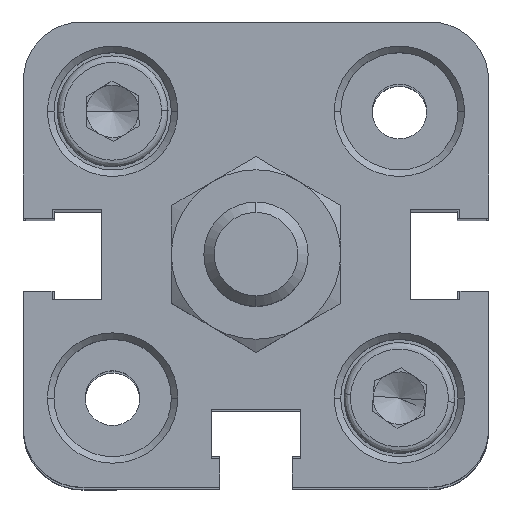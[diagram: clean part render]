
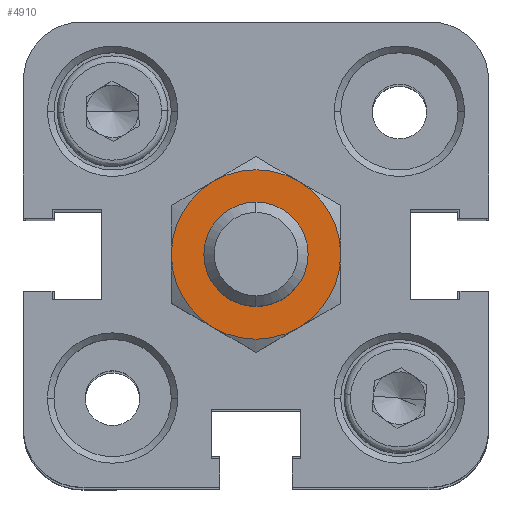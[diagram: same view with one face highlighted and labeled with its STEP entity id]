
A CAD part, top view. The second image highlights one B-rep face of the part: STEP entity #4910.
In plain terms, the highlighted planar face has unit normal (0, 0, 1).
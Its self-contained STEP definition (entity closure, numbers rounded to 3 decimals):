
#207 = DIRECTION ( 'NONE',  ( -1., 0., 0. ) ) ;
#682 = ORIENTED_EDGE ( 'NONE', *, *, #14333, .T. ) ;
#759 = ORIENTED_EDGE ( 'NONE', *, *, #6722, .T. ) ;
#1856 = CARTESIAN_POINT ( 'NONE',  ( 0., 0., 8.5 ) ) ;
#1878 = EDGE_CURVE ( 'NONE', #3404, #7822, #16882, .T. ) ;
#2254 = CARTESIAN_POINT ( 'NONE',  ( 0., 0., 8.5 ) ) ;
#2376 = AXIS2_PLACEMENT_3D ( 'NONE', #2254, #9416, #5877 ) ;
#2837 = EDGE_LOOP ( 'NONE', ( #14822, #15342 ) ) ;
#2894 = CIRCLE ( 'NONE', #2376, 4. ) ;
#3203 = AXIS2_PLACEMENT_3D ( 'NONE', #1856, #11029, #207 ) ;
#3404 = VERTEX_POINT ( 'NONE', #3536 ) ;
#3536 = CARTESIAN_POINT ( 'NONE',  ( -3.25, 5.629, 8.5 ) ) ;
#3661 = PLANE ( 'NONE',  #20500 ) ;
#3817 = DIRECTION ( 'NONE',  ( 0., 0., 1. ) ) ;
#4377 = FACE_OUTER_BOUND ( 'NONE', #7389, .T. ) ;
#4660 = CARTESIAN_POINT ( 'NONE',  ( 6.5, 0., 8.5 ) ) ;
#4862 = EDGE_CURVE ( 'NONE', #6450, #5720, #12777, .T. ) ;
#4879 = CIRCLE ( 'NONE', #12956, 6.5 ) ;
#4910 = ADVANCED_FACE ( 'NONE', ( #7186, #4377 ), #3661, .T. ) ;
#5327 = CARTESIAN_POINT ( 'NONE',  ( 4., 0., 8.5 ) ) ;
#5640 = DIRECTION ( 'NONE',  ( -1., 0., 0. ) ) ;
#5720 = VERTEX_POINT ( 'NONE', #11280 ) ;
#5827 = CARTESIAN_POINT ( 'NONE',  ( -6.5, 0., 8.5 ) ) ;
#5877 = DIRECTION ( 'NONE',  ( -1., 0., 0. ) ) ;
#5925 = AXIS2_PLACEMENT_3D ( 'NONE', #19667, #10506, #8923 ) ;
#6450 = VERTEX_POINT ( 'NONE', #4660 ) ;
#6722 = EDGE_CURVE ( 'NONE', #20540, #17810, #20307, .T. ) ;
#6739 = CARTESIAN_POINT ( 'NONE',  ( -4., 0., 8.5 ) ) ;
#6754 = AXIS2_PLACEMENT_3D ( 'NONE', #7264, #16385, #5640 ) ;
#7186 = FACE_BOUND ( 'NONE', #2837, .T. ) ;
#7264 = CARTESIAN_POINT ( 'NONE',  ( 0., 0., 8.5 ) ) ;
#7389 = EDGE_LOOP ( 'NONE', ( #11201, #759, #17743, #19281, #682, #10656 ) ) ;
#7822 = VERTEX_POINT ( 'NONE', #5827 ) ;
#7908 = CIRCLE ( 'NONE', #5925, 6.5 ) ;
#8708 = DIRECTION ( 'NONE',  ( 0., 0., 1. ) ) ;
#8923 = DIRECTION ( 'NONE',  ( -1., 0., 0. ) ) ;
#9416 = DIRECTION ( 'NONE',  ( 0., 0., -1. ) ) ;
#9670 = EDGE_CURVE ( 'NONE', #20909, #17388, #2894, .T. ) ;
#10376 = CIRCLE ( 'NONE', #6754, 4. ) ;
#10506 = DIRECTION ( 'NONE',  ( 0., 0., 1. ) ) ;
#10656 = ORIENTED_EDGE ( 'NONE', *, *, #1878, .T. ) ;
#10829 = CARTESIAN_POINT ( 'NONE',  ( -3.25, -5.629, 8.5 ) ) ;
#11029 = DIRECTION ( 'NONE',  ( 0., 0., 1. ) ) ;
#11099 = DIRECTION ( 'NONE',  ( 1., 0., 0. ) ) ;
#11201 = ORIENTED_EDGE ( 'NONE', *, *, #17619, .T. ) ;
#11280 = CARTESIAN_POINT ( 'NONE',  ( 3.25, 5.629, 8.5 ) ) ;
#12652 = CARTESIAN_POINT ( 'NONE',  ( 0., 0., 8.5 ) ) ;
#12777 = CIRCLE ( 'NONE', #3203, 6.5 ) ;
#12956 = AXIS2_PLACEMENT_3D ( 'NONE', #19014, #20920, #13679 ) ;
#12983 = AXIS2_PLACEMENT_3D ( 'NONE', #12652, #14996, #13098 ) ;
#13062 = DIRECTION ( 'NONE',  ( 0., 0., 1. ) ) ;
#13098 = DIRECTION ( 'NONE',  ( -1., 0., 0. ) ) ;
#13679 = DIRECTION ( 'NONE',  ( -1., 0., 0. ) ) ;
#14109 = DIRECTION ( 'NONE',  ( -1., 0., 0. ) ) ;
#14333 = EDGE_CURVE ( 'NONE', #5720, #3404, #7908, .T. ) ;
#14822 = ORIENTED_EDGE ( 'NONE', *, *, #9670, .T. ) ;
#14996 = DIRECTION ( 'NONE',  ( 0., 0., 1. ) ) ;
#15342 = ORIENTED_EDGE ( 'NONE', *, *, #16353, .T. ) ;
#15451 = CARTESIAN_POINT ( 'NONE',  ( 0., 0., 8.5 ) ) ;
#16353 = EDGE_CURVE ( 'NONE', #17388, #20909, #10376, .T. ) ;
#16385 = DIRECTION ( 'NONE',  ( 0., 0., -1. ) ) ;
#16882 = CIRCLE ( 'NONE', #17278, 6.5 ) ;
#17278 = AXIS2_PLACEMENT_3D ( 'NONE', #15451, #8708, #14109 ) ;
#17331 = CIRCLE ( 'NONE', #22550, 6.5 ) ;
#17388 = VERTEX_POINT ( 'NONE', #5327 ) ;
#17619 = EDGE_CURVE ( 'NONE', #7822, #20540, #17331, .T. ) ;
#17743 = ORIENTED_EDGE ( 'NONE', *, *, #20099, .T. ) ;
#17810 = VERTEX_POINT ( 'NONE', #23128 ) ;
#19014 = CARTESIAN_POINT ( 'NONE',  ( 0., 0., 8.5 ) ) ;
#19281 = ORIENTED_EDGE ( 'NONE', *, *, #4862, .T. ) ;
#19667 = CARTESIAN_POINT ( 'NONE',  ( 0., 0., 8.5 ) ) ;
#20099 = EDGE_CURVE ( 'NONE', #17810, #6450, #4879, .T. ) ;
#20307 = CIRCLE ( 'NONE', #12983, 6.5 ) ;
#20471 = CARTESIAN_POINT ( 'NONE',  ( 0., 0., 8.5 ) ) ;
#20500 = AXIS2_PLACEMENT_3D ( 'NONE', #21710, #3817, #11099 ) ;
#20540 = VERTEX_POINT ( 'NONE', #10829 ) ;
#20909 = VERTEX_POINT ( 'NONE', #6739 ) ;
#20920 = DIRECTION ( 'NONE',  ( 0., 0., 1. ) ) ;
#21710 = CARTESIAN_POINT ( 'NONE',  ( 0., 7.506, 8.5 ) ) ;
#22111 = DIRECTION ( 'NONE',  ( -1., 0., 0. ) ) ;
#22550 = AXIS2_PLACEMENT_3D ( 'NONE', #20471, #13062, #22111 ) ;
#23128 = CARTESIAN_POINT ( 'NONE',  ( 3.25, -5.629, 8.5 ) ) ;
